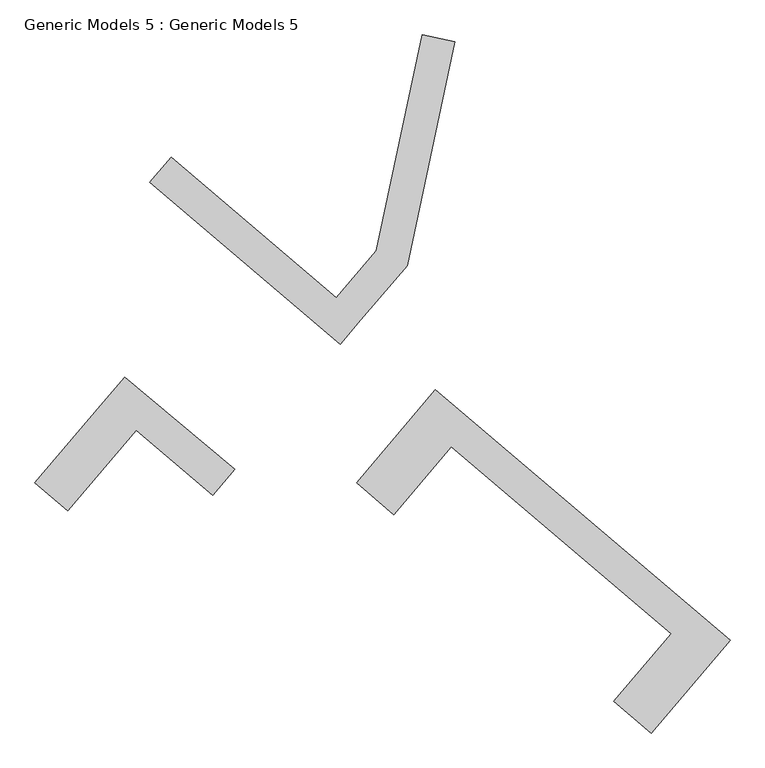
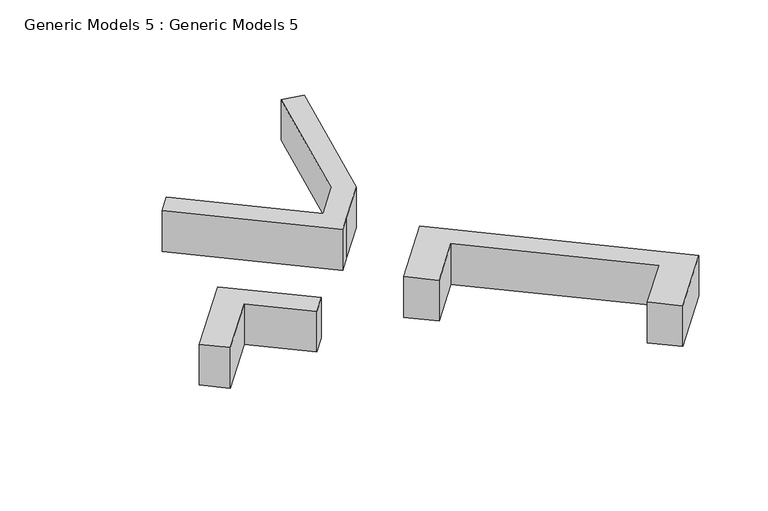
"""IFC4 building model written with IfcOpenShell, lengths in millimetres: proxy geometry, Generic Models 5 : Generic Models 5."""

from ifc_helpers import new_model, si_unit, origin, place, context, project, spatial, faceted_brep, source, transform, mapped, element, save


def generic_models_5_generic_models_5_f4b071fc(model_context):
    return source(origin(), model_context, "Body", "Brep", [
        faceted_brep([(899064.5905438, 7313.4684413, 6196.8582084), (891846.7174763, -1183.93667, 6196.8582084), (895268.553215, -4090.5152897, 6196.8582084), (900523.9203589, 2096.4851207, 6196.8582084), (920624.0605521, -14975.3711019, 6196.8582084), (915368.96848, -21162.6354509, 6196.8582084), (918790.4012363, -24068.871769, 6196.8582084), (926008.561734, -15571.1282739, 6196.8582084), (899064.5905438, 7313.4684413, 0.0), (926008.561734, -15571.1282739, 0.0), (918790.4012363, -24068.871769, 0.0), (915368.96848, -21162.6354509, 0.0), (920624.0605521, -14975.3711019, 0.0), (900523.9203589, 2096.4851207, 0.0), (895268.553215, -4090.5152897, 0.0), (891846.7174763, -1183.93667, 0.0)], [[[0, 1, 2, 3, 4, 5, 6, 7]], [[8, 9, 10, 11, 12, 13, 14, 15]], [[1, 0, 8, 15]], [[2, 1, 15, 14]], [[3, 2, 14, 13]], [[4, 3, 13, 12]], [[5, 4, 12, 11]], [[6, 5, 11, 10]], [[7, 6, 10, 9]], [[0, 7, 9, 8]]]),
        faceted_brep([(870645.3760525, 8495.3143952, 6196.8582084), (868436.7153623, 5894.8688098, 6196.8582084), (862432.2164452, -1174.7425483, 6196.8582084), (865435.4765791, -3725.9601872, 6196.8582084), (871685.4948651, 3632.7221731, 6196.8582084), (878679.2375703, -2307.3385139, 6196.8582084), (880686.4283815, 55.8993104, 6196.8582084), (870645.3760525, 8495.3143952, 0.0), (880686.4283815, 55.8993104, 0.0), (878679.2375703, -2307.3385139, 0.0), (871685.4948651, 3632.7221731, 0.0), (865435.4765791, -3725.9601872, 0.0), (862432.2164452, -1174.7425483, 0.0), (868436.7153623, 5894.8688098, 0.0)], [[[0, 1, 2, 3, 4, 5, 6]], [[7, 8, 9, 10, 11, 12, 13]], [[1, 0, 7, 13]], [[2, 1, 13, 12]], [[3, 2, 12, 11]], [[4, 3, 11, 10]], [[5, 4, 10, 9]], [[6, 5, 9, 8]], [[0, 6, 8, 7]]]),
        faceted_brep([(892247.7539423, 13715.0655444, 6196.8582084), (896469.885978, 18686.1435655, 6196.8582084), (900826.1186705, 39151.4138224, 6196.8582084), (897861.0547118, 39782.5566507, 6196.8582084), (893664.0917127, 20065.5240449, 6196.8582084), (890009.8143066, 15763.029963, 6196.8582084), (874899.7740044, 28596.5813475, 6196.8582084), (872937.21669, 26285.9441787, 6196.8582084), (890357.8476089, 11489.9173265, 6196.8582084), (892247.7300095, 13715.0858715, 0.0), (890357.8476089, 11489.9173265, 0.0), (872937.21669, 26285.9441787, 0.0), (874899.7740044, 28596.5813475, 0.0), (890009.8143066, 15763.029963, 0.0), (893664.0917127, 20065.5240449, 0.0), (897861.0547118, 39782.5566507, 0.0), (900826.1186705, 39151.4138224, 0.0), (896469.885978, 18686.1435655, 0.0)], [[[0, 1, 2, 3, 4, 5, 6, 7, 8]], [[9, 10, 11, 12, 13, 14, 15, 16, 17]], [[1, 0, 9, 17]], [[2, 1, 17, 16]], [[3, 2, 16, 15]], [[4, 3, 15, 14]], [[5, 4, 14, 13]], [[6, 5, 13, 12]], [[7, 6, 12, 11]], [[8, 7, 11, 10]], [[0, 8, 10, 9]]]),
    ])


if __name__ == "__main__":
    model = new_model("IFC4")
    model_context = context("Model", 3, world=origin())
    ifc_project = project(units=[si_unit("LENGTHUNIT", "METRE", prefix="MILLI")], contexts=[model_context])
    site = spatial("IfcSite", under=ifc_project)
    building = spatial("IfcBuilding", under=site)
    placement = place(None, origin())
    generic_models_5_generic_models_5_shape = generic_models_5_generic_models_5_f4b071fc(model_context)
    element("IfcBuildingElementProxy", 1, Name="Generic Models 5 : Generic Models 5", ObjectType="Generic Models 5 : Generic Models 5", at=placement, inside=building, context=model_context, shape_type="MappedRepresentation", body=[
        mapped(generic_models_5_generic_models_5_shape, transform((0.0, 0.0, 0.0), x_axis=(1.0, 0.0, 0.0), y_axis=(0.0, 1.0, 0.0), z_axis=(0.0, 0.0, 1.0))),
    ])
    save(model, "model.ifc")
